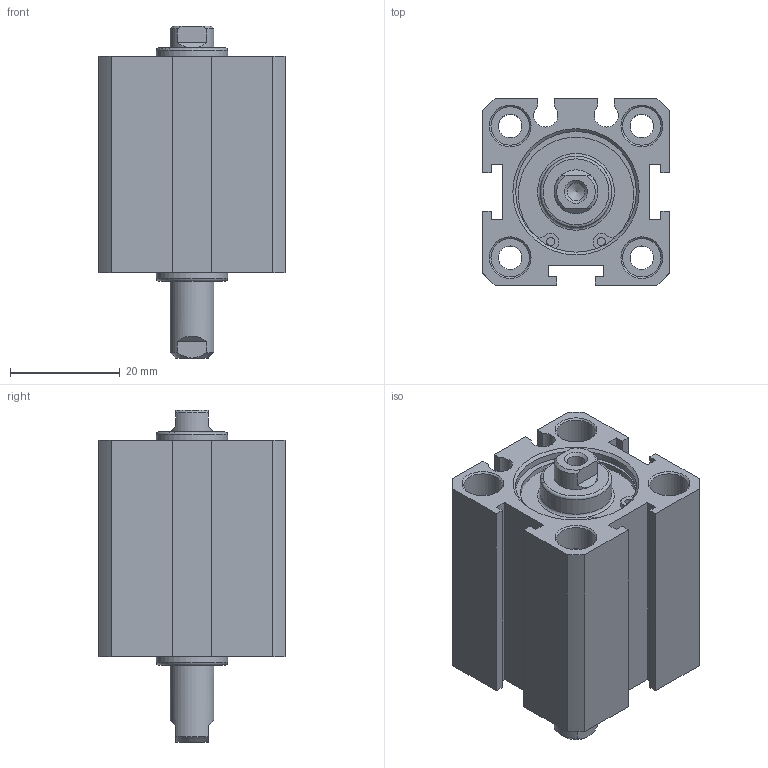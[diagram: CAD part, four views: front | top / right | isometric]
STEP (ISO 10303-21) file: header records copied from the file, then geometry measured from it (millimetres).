
FILE_DESCRIPTION((''),'2;1');
FILE_NAME('I:\3D電子目錄\氣缸\JDD\JDD-S\JDD20-S\JDD20x10-S.stp','2007-02-08T14:14:04',('662F206'),(''),'Autodesk Inventor 10','Autodesk Inventor 10','');
FILE_SCHEMA(('AUTOMOTIVE_DESIGN { 1 0 10303 214 1 1 1 1 }'));
Length unit declared in the file: millimetre
Products named in the file (3): JDD20-S; R 形環 23
Assembly tree (3 placements, depth 2):
  JDD20-S
    JDD20-S
    R 形環 23  x2
Bounding box: 34 x 34 x 60.5 mm (x, y, z)
Volume: 36547.8 mm3; surface area: 14343.8 mm2
Topology: 3 solids, 3 shells, 149 faces, 346 edges, 225 vertices
Faces by surface type: plane 70, cylinder 47, cone 18, bspline 12, torus 2
Full cylindrical faces by diameter (mm): 1.5 x6, 4.3 x4, 7 x8, 8 x1, 13 x2, 22 x4, 23.2 x2
Entity records: 3819 total; most frequent: CARTESIAN_POINT 813, DIRECTION 626, ORIENTED_EDGE 514, EDGE_CURVE 257, AXIS2_PLACEMENT_3D 246, EDGE_LOOP 220, VERTEX_POINT 195, FACE_OUTER_BOUND 137
